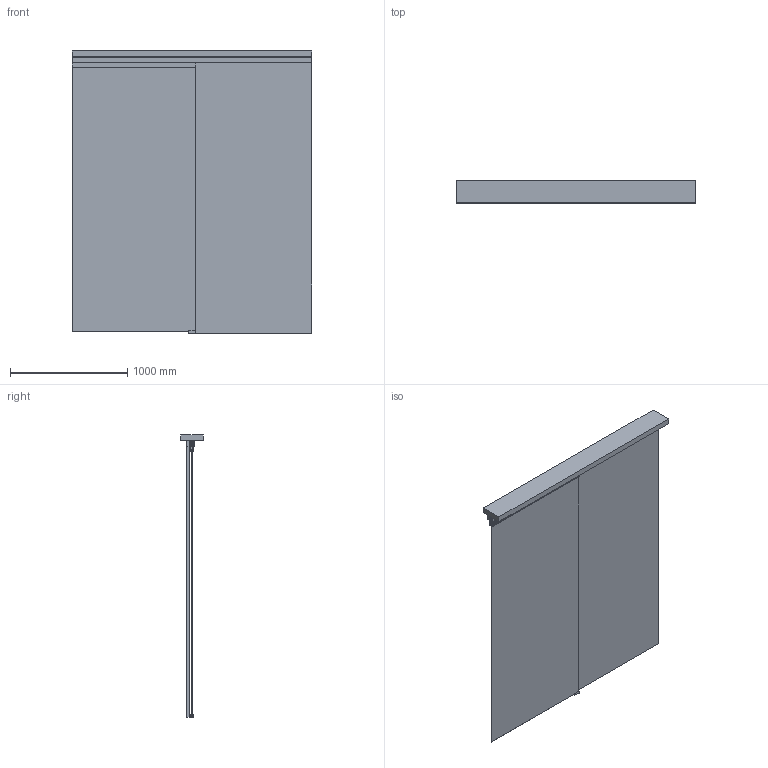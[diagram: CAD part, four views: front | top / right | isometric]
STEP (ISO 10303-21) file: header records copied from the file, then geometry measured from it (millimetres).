
FILE_DESCRIPTION(('STEP AP242'),'1');
FILE_NAME('OPO_56.047.51.stp','2026-02-23T17:26:22',(' '),(' '),'Spatial InterOp 3D',' ',' ');
FILE_SCHEMA(('AP242_MANAGED_MODEL_BASED_3D_ENGINEERING_MIM_LF {1 0 10303 442 1 1 4}'));
Length unit declared in the file: millimetre
Products named in the file (10): Zeichnung1; OPO_56.047.51_Aktivator; OPO_56.047.51_Laufwerk_SS_160; OPO_56.047.51_Laufwerk_SS_160_mit_Zweiwege_Daempfer; OPO_56.047.51_Endstopper; OPO_56.047.51_Abdeckung_fuer_Revisionsoeffnung; OPO_56.037.36; OPO_56.047.51_Klemmschuh_Glas_Spaceship_120; OPO_56.047.51_Bodenfuehrung_Glas; AutoCreatedBlock_124
Assembly tree (13 placements, depth 2):
  Zeichnung1
    OPO_56.047.51_Aktivator  x2
    OPO_56.047.51_Laufwerk_SS_160
    OPO_56.047.51_Laufwerk_SS_160_mit_Zweiwege_Daempfer
    OPO_56.047.51_Endstopper  x2
    OPO_56.047.51_Abdeckung_fuer_Revisionsoeffnung
    OPO_56.037.36  x2
    OPO_56.047.51_Klemmschuh_Glas_Spaceship_120  x2
    OPO_56.047.51_Bodenfuehrung_Glas
    AutoCreatedBlock_124
Bounding box: 2050 x 188 x 2410 mm (x, y, z)
Volume: 88512225 mm3; surface area: 12415599.9 mm2
Topology: 109 solids, 109 shells, 2026 faces, 5095 edges, 3382 vertices
Faces by surface type: plane 1228, cylinder 778, cone 20
Entity records: 54565 total; most frequent: DIRECTION 7602, CARTESIAN_POINT 7426, ORIENTED_EDGE 7124, EDGE_CURVE 3562, AXIS2_PLACEMENT_3D 2604, LINE 2394, VECTOR 2394, VERTEX_POINT 2364
